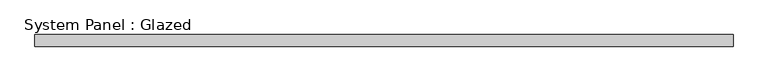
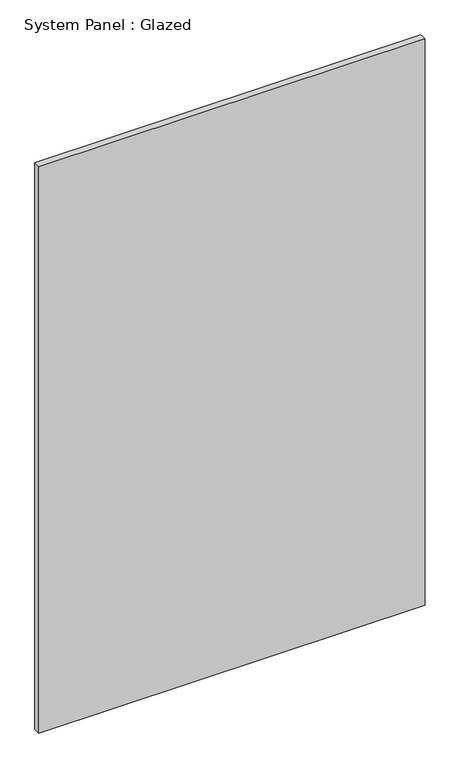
"""IFC4 building model written with IfcOpenShell, lengths in millimetres: plate geometry, System Panel : Glazed."""

from ifc_helpers import new_model, si_unit, origin, origin_with_axes, place, context, project, spatial, polyline, outline, extrude, source, transform, mapped, element, save


def system_panel_glazed_5e03f015(model_context):
    return source(origin(), model_context, "Body", "SweptSolid", [
        extrude(outline(polyline([(738.3638889, -12.7), (-738.3638889, -12.7), (-738.3638889, 12.7), (738.3638889, 12.7), (738.3638889, -12.7)])), origin_with_axes(), (0.0, 0.0, 1.0), 2287.6010357),
    ])


if __name__ == "__main__":
    model = new_model("IFC4")
    model_context = context("Model", 3, world=origin())
    ifc_project = project(units=[si_unit("LENGTHUNIT", "METRE", prefix="MILLI")], contexts=[model_context])
    site = spatial("IfcSite", under=ifc_project)
    building = spatial("IfcBuilding", under=site)
    placement = place(None, origin())
    system_panel_glazed_shape = system_panel_glazed_5e03f015(model_context)
    element("IfcPlate", 1, ObjectType="System Panel : Glazed", at=placement, inside=building, context=model_context, shape_type="MappedRepresentation", body=[
        mapped(system_panel_glazed_shape, transform((0.0, 0.0, 0.0), x_axis=(1.0, 0.0, 0.0), y_axis=(0.0, 1.0, 0.0), z_axis=(0.0, 0.0, 1.0))),
    ])
    save(model, "model.ifc")
